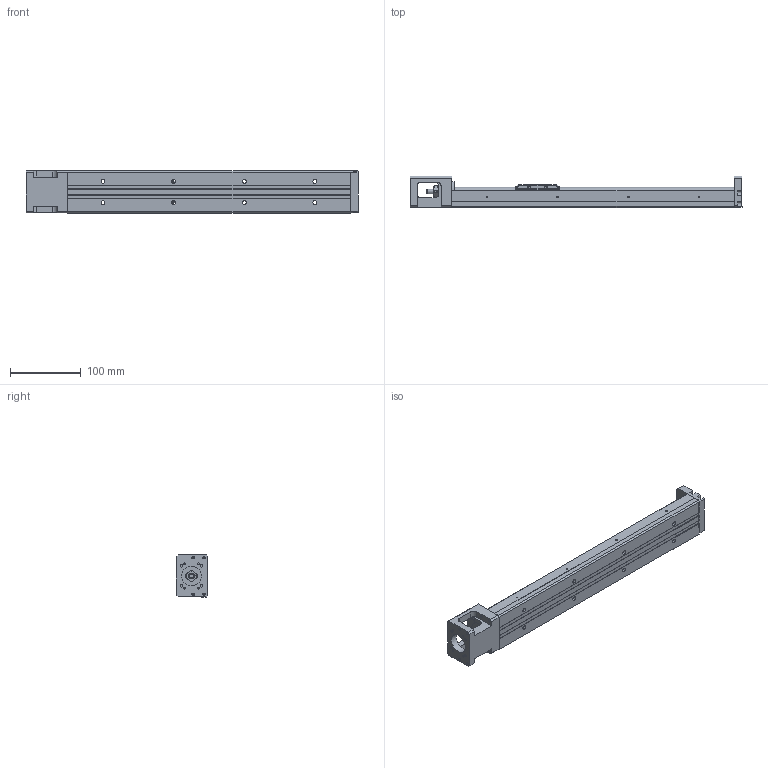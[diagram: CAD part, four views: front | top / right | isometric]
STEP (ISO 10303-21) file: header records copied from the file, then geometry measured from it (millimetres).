
FILE_DESCRIPTION(/* description */ (''),/* implementation_level */ '2;1');
FILE_NAME(/* name */ 'KP33S-400.stp',/* time_stamp */ '2020-06-04T17:54:16+08:00',/* author */ (''),/* organization */ (''),/* preprocessor_version */ 'ST-DEVELOPER v14',/* originating_system */ 'SIEMENS PLM Software NX 8.0',/* authorisation */ '');
FILE_SCHEMA (('AUTOMOTIVE_DESIGN { 1 0 10303 214 3 1 1 1 }'));
Length unit declared in the file: millimetre
Products named in the file (1): model1
Bounding box: 470 x 44.45 x 60 mm (x, y, z)
Volume: 511189 mm3; surface area: 145477.2 mm2
Topology: 5 solids, 14 shells, 636 faces, 1612 edges, 1060 vertices
Faces by surface type: plane 370, cylinder 181, bspline 31, cone 22, extrusion 21, torus 9, revolution 2
Full cylindrical faces by diameter (mm): 1.6 x4, 1.65 x4, 2.15 x4, 2.42 x4, 2.45 x4, 2.5 x12, 3.2 x4, 3.3 x4, 3.4 x4, 3.5 x10, 3.969 x1, 4 x4, 4.001 x1, 4.135 x2, 5.5 x8, 6 x5, 7.6 x1, 8 x5, 9.5 x8, 10.72 x3, 11.8 x2, 12 x6, 12.8 x1, 13 x2, 14 x1, 17.38 x3, 21.5 x1, 22 x2, 28 x1
Entity records: 33902 total; most frequent: CARTESIAN_POINT 16168, DIRECTION 2872, ORIENTED_EDGE 2798, EDGE_CURVE 1399, AXIS2_PLACEMENT_3D 1017, VERTEX_POINT 991, EDGE_LOOP 898, VECTOR 836
